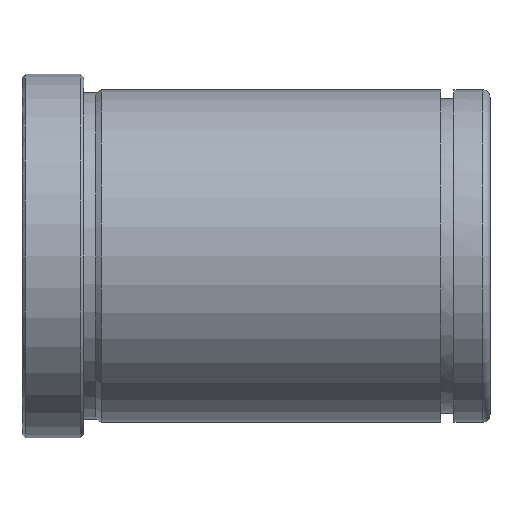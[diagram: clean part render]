
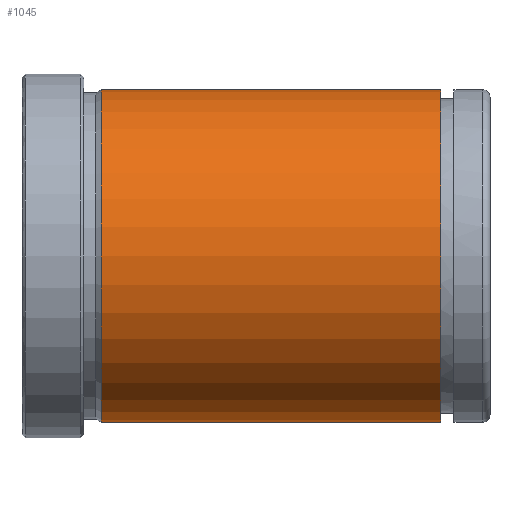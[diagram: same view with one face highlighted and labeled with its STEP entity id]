
A CAD part, front view. The second image highlights one B-rep face of the part: STEP entity #1045.
In plain terms, the highlighted cylindrical face has radius 27 mm (diameter 54 mm), a partial arc.
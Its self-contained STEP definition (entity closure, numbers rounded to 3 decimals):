
#851=CARTESIAN_POINT('Vertex',(12.866,0.,-27.)) ;
#858=CARTESIAN_POINT('Vertex',(12.866,0.,27.)) ;
#887=CARTESIAN_POINT('Axis2P3D Location',(12.866,0.,0.)) ;
#891=CARTESIAN_POINT('Vertex',(12.866,-27.,0.)) ;
#894=CARTESIAN_POINT('Axis2P3D Location',(12.866,0.,0.)) ;
#985=CARTESIAN_POINT('Line Origine',(152.,0.,27.)) ;
#989=CARTESIAN_POINT('Vertex',(68.,0.,27.)) ;
#1003=CARTESIAN_POINT('Vertex',(68.,0.,-27.)) ;
#1006=CARTESIAN_POINT('Line Origine',(152.,0.,-27.)) ;
#1020=CARTESIAN_POINT('Axis2P3D Location',(152.,0.,0.)) ;
#1025=CARTESIAN_POINT('Axis2P3D Location',(68.,0.,0.)) ;
#1029=CARTESIAN_POINT('Vertex',(68.,-27.,0.)) ;
#1032=CARTESIAN_POINT('Axis2P3D Location',(68.,0.,0.)) ;
#888=DIRECTION('Axis2P3D Direction',(1.,0.,-0.)) ;
#895=DIRECTION('Axis2P3D Direction',(1.,0.,-0.)) ;
#986=DIRECTION('Vector Direction',(-1.,0.,0.)) ;
#1007=DIRECTION('Vector Direction',(-1.,0.,0.)) ;
#1021=DIRECTION('Axis2P3D Direction',(-1.,-0.,-0.)) ;
#1022=DIRECTION('Axis2P3D XDirection',(0.,0.,-1.)) ;
#1026=DIRECTION('Axis2P3D Direction',(-1.,-0.,-0.)) ;
#1033=DIRECTION('Axis2P3D Direction',(-1.,-0.,-0.)) ;
#889=AXIS2_PLACEMENT_3D('Circle Axis2P3D',#887,#888,$) ;
#896=AXIS2_PLACEMENT_3D('Circle Axis2P3D',#894,#895,$) ;
#1023=AXIS2_PLACEMENT_3D('Cylinder Axis2P3D',#1020,#1021,#1022) ;
#1027=AXIS2_PLACEMENT_3D('Circle Axis2P3D',#1025,#1026,$) ;
#1034=AXIS2_PLACEMENT_3D('Circle Axis2P3D',#1032,#1033,$) ;
#1038=ORIENTED_EDGE('',*,*,#1010,.T.) ;
#1039=ORIENTED_EDGE('',*,*,#1031,.F.) ;
#1040=ORIENTED_EDGE('',*,*,#1036,.F.) ;
#1041=ORIENTED_EDGE('',*,*,#991,.T.) ;
#1042=ORIENTED_EDGE('',*,*,#898,.T.) ;
#1043=ORIENTED_EDGE('',*,*,#893,.T.) ;
#987=VECTOR('Line Direction',#986,1.) ;
#1008=VECTOR('Line Direction',#1007,1.) ;
#1045=ADVANCED_FACE('553-42X76',(#1044),#1024,.T.) ;
#890=CIRCLE('generated circle',#889,27.) ;
#897=CIRCLE('generated circle',#896,27.) ;
#1028=CIRCLE('generated circle',#1027,27.) ;
#1035=CIRCLE('generated circle',#1034,27.) ;
#1024=CYLINDRICAL_SURFACE('generated cylinder',#1023,27.) ;
#893=EDGE_CURVE('',#892,#852,#890,.T.) ;
#898=EDGE_CURVE('',#859,#892,#897,.T.) ;
#991=EDGE_CURVE('',#990,#859,#988,.T.) ;
#1010=EDGE_CURVE('',#852,#1004,#1009,.F.) ;
#1031=EDGE_CURVE('',#1030,#1004,#1028,.F.) ;
#1036=EDGE_CURVE('',#990,#1030,#1035,.F.) ;
#1037=EDGE_LOOP('',(#1038,#1039,#1040,#1041,#1042,#1043)) ;
#1044=FACE_OUTER_BOUND('',#1037,.T.) ;
#988=LINE('Line',#985,#987) ;
#1009=LINE('Line',#1006,#1008) ;
#852=VERTEX_POINT('',#851) ;
#859=VERTEX_POINT('',#858) ;
#892=VERTEX_POINT('',#891) ;
#990=VERTEX_POINT('',#989) ;
#1004=VERTEX_POINT('',#1003) ;
#1030=VERTEX_POINT('',#1029) ;
